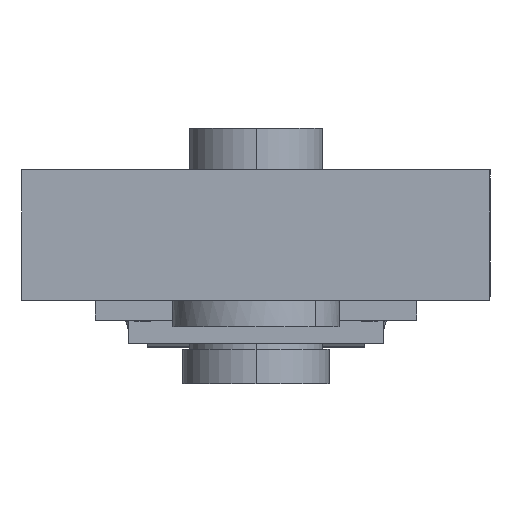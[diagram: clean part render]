
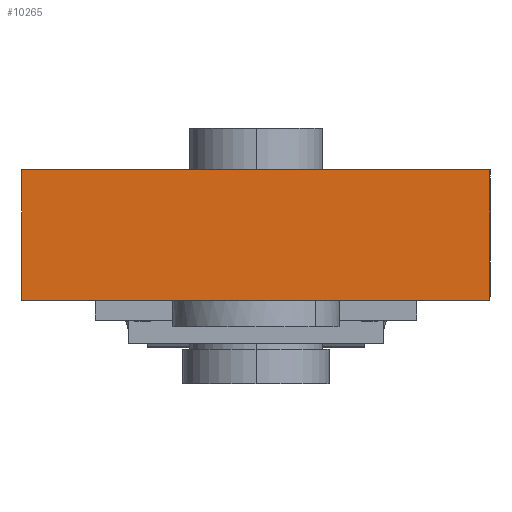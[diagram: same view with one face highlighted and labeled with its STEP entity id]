
A CAD part, left-side view. The second image highlights one B-rep face of the part: STEP entity #10265.
In plain terms, the highlighted planar face has unit normal (-1, 0, 0).
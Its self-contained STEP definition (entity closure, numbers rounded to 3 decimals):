
#106 = VERTEX_POINT ( 'NONE', #15076 ) ;
#428 = EDGE_CURVE ( 'NONE', #7792, #7525, #10014, .T. ) ;
#695 = CARTESIAN_POINT ( 'NONE',  ( -39.696, 19.102, -5.05 ) ) ;
#1499 = LINE ( 'NONE', #6636, #11030 ) ;
#1639 = LINE ( 'NONE', #5777, #12926 ) ;
#1840 = LINE ( 'NONE', #695, #16984 ) ;
#2828 = CARTESIAN_POINT ( 'NONE',  ( -39.696, -11.2, -5.05 ) ) ;
#3721 = CARTESIAN_POINT ( 'NONE',  ( -39.696, 11.2, 1.2 ) ) ;
#3850 = EDGE_LOOP ( 'NONE', ( #15170, #7158, #5663, #4026 ) ) ;
#3907 = AXIS2_PLACEMENT_3D ( 'NONE', #12349, #5661, #9886 ) ;
#4026 = ORIENTED_EDGE ( 'NONE', *, *, #15675, .T. ) ;
#4327 = VECTOR ( 'NONE', #14063, 1000. ) ;
#5387 = EDGE_CURVE ( 'NONE', #9295, #7525, #1639, .T. ) ;
#5638 = DIRECTION ( 'NONE',  ( 0., 0., 1. ) ) ;
#5661 = DIRECTION ( 'NONE',  ( 1., 0., 0. ) ) ;
#5663 = ORIENTED_EDGE ( 'NONE', *, *, #14041, .F. ) ;
#5777 = CARTESIAN_POINT ( 'NONE',  ( -39.696, 11.2, 1.2 ) ) ;
#6636 = CARTESIAN_POINT ( 'NONE',  ( -39.696, 11.2, -82.784 ) ) ;
#7158 = ORIENTED_EDGE ( 'NONE', *, *, #5387, .F. ) ;
#7171 = PLANE ( 'NONE',  #3907 ) ;
#7525 = VERTEX_POINT ( 'NONE', #13521 ) ;
#7792 = VERTEX_POINT ( 'NONE', #2828 ) ;
#8242 = DIRECTION ( 'NONE',  ( 0., -1., 0. ) ) ;
#8630 = DIRECTION ( 'NONE',  ( 0., -1., 0. ) ) ;
#8696 = CARTESIAN_POINT ( 'NONE',  ( -39.696, -11.2, -82.784 ) ) ;
#9295 = VERTEX_POINT ( 'NONE', #3721 ) ;
#9886 = DIRECTION ( 'NONE',  ( 0., 0., 1. ) ) ;
#10014 = LINE ( 'NONE', #8696, #4327 ) ;
#10265 = ADVANCED_FACE ( 'NONE', ( #12629 ), #7171, .F. ) ;
#11030 = VECTOR ( 'NONE', #5638, 1000. ) ;
#12349 = CARTESIAN_POINT ( 'NONE',  ( -39.696, 0., 1.2 ) ) ;
#12629 = FACE_OUTER_BOUND ( 'NONE', #3850, .T. ) ;
#12926 = VECTOR ( 'NONE', #8242, 1000. ) ;
#13521 = CARTESIAN_POINT ( 'NONE',  ( -39.696, -11.2, 1.2 ) ) ;
#14041 = EDGE_CURVE ( 'NONE', #106, #9295, #1499, .T. ) ;
#14063 = DIRECTION ( 'NONE',  ( 0., 0., 1. ) ) ;
#15076 = CARTESIAN_POINT ( 'NONE',  ( -39.696, 11.2, -5.05 ) ) ;
#15170 = ORIENTED_EDGE ( 'NONE', *, *, #428, .T. ) ;
#15675 = EDGE_CURVE ( 'NONE', #106, #7792, #1840, .T. ) ;
#16984 = VECTOR ( 'NONE', #8630, 1000. ) ;
